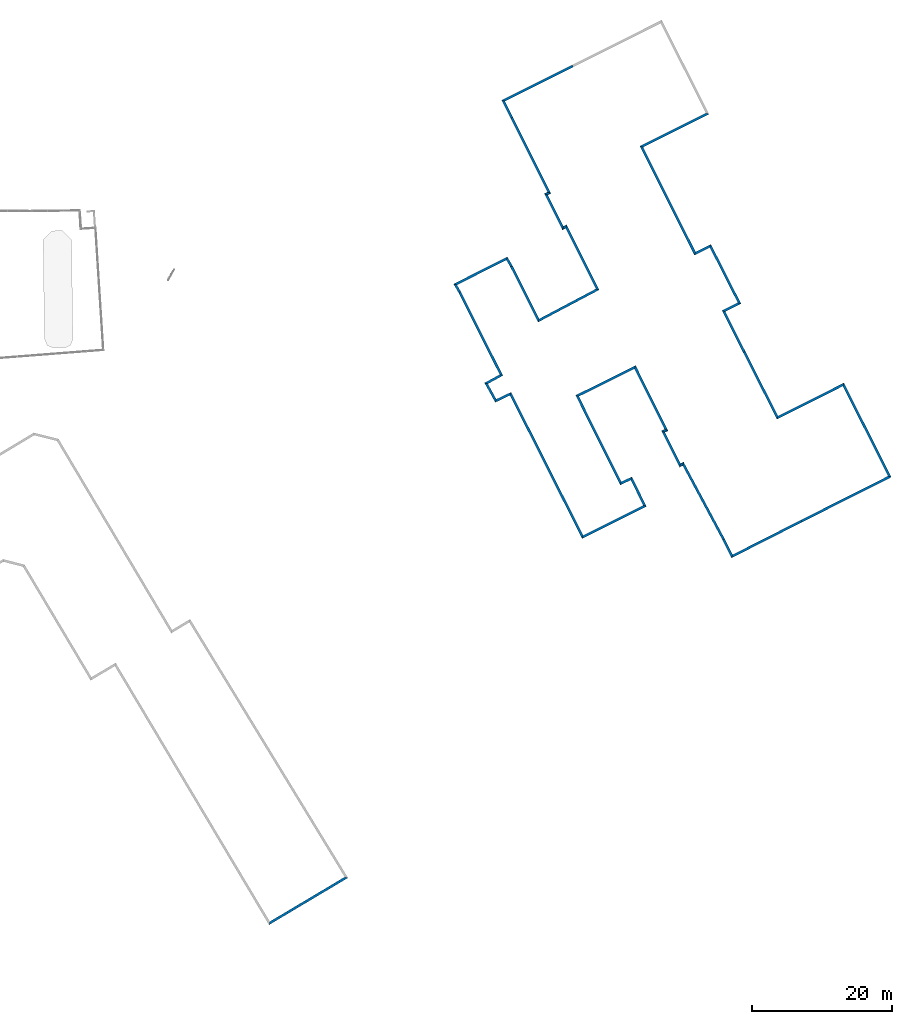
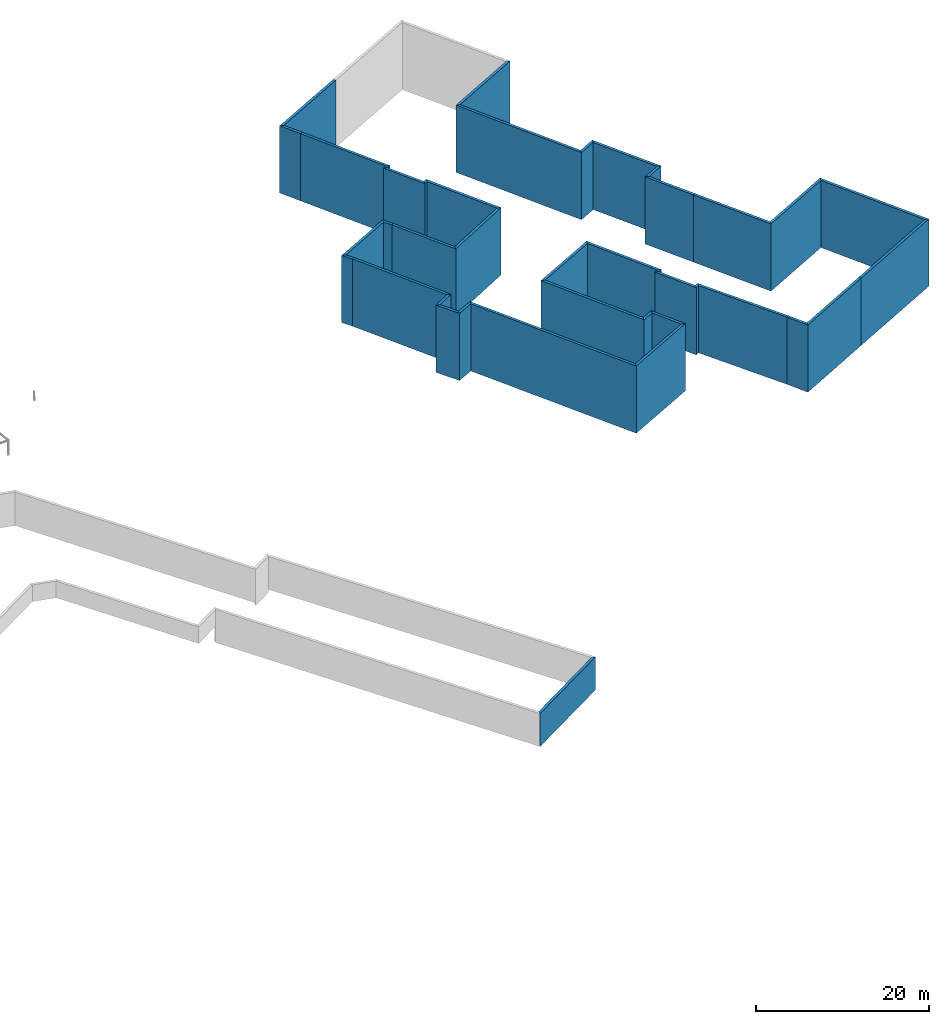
# One storey, part 32 of 91: 40 walls.
"""IFC2X3 building model written with IfcOpenShell, lengths in metres."""

from ifc_helpers import new_model, entity, si_unit, converted_unit, derived_unit, money_unit, direction, frame, origin_with_axes, place, context, subcontext, project, spatial, polyline, outline, extrude, material, layer, layer_set, layer_usage, type_object, element, save


model = new_model("IFC2X3")

# Units and contexts
model_context = context("Model", 3, precision=1e-05, world=origin_with_axes(), true_north=direction((0.0, 1.0)))
body_context = subcontext(model_context, "Body", "Model", "MODEL_VIEW")
ifc_project = project(units=[si_unit("LENGTHUNIT", "METRE"), si_unit("AREAUNIT", "SQUARE_METRE"), si_unit("VOLUMEUNIT", "CUBIC_METRE"), converted_unit("PLANEANGLEUNIT", "DEGREE", entity("IfcPlaneAngleMeasure", 0.0174532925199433), si_unit("PLANEANGLEUNIT", "RADIAN"), dimensions=[0, 0, 0, 0, 0, 0, 0]), money_unit("EUR"), converted_unit("TIMEUNIT", "Year", entity("IfcTimeMeasure", 31557600.0), si_unit("TIMEUNIT", "SECOND"), dimensions=[0, 0, 1, 0, 0, 0, 0]), si_unit("MASSUNIT", "GRAM", prefix="KILO"), si_unit("THERMODYNAMICTEMPERATUREUNIT", "DEGREE_CELSIUS"), si_unit("LUMINOUSINTENSITYUNIT", "LUMEN"), si_unit("ENERGYUNIT", "JOULE", prefix="MEGA"), derived_unit("THERMALCONDUCTANCEUNIT", [(si_unit("POWERUNIT", "WATT"), 1), (si_unit("LENGTHUNIT", "METRE"), -1), (si_unit("THERMODYNAMICTEMPERATUREUNIT", "KELVIN"), -1)]), derived_unit("SPECIFICHEATCAPACITYUNIT", [(si_unit("ENERGYUNIT", "JOULE"), 1), (si_unit("MASSUNIT", "GRAM", prefix="KILO"), -1), (si_unit("THERMODYNAMICTEMPERATUREUNIT", "KELVIN"), -1)]), derived_unit("MASSDENSITYUNIT", [(si_unit("MASSUNIT", "GRAM", prefix="KILO"), 1), (si_unit("VOLUMEUNIT", "CUBIC_METRE"), -1)])], contexts=[model_context])

# Site, building, storey
site_placement = place(None, origin_with_axes())
site = spatial("IfcSite", under=ifc_project, at=site_placement, Name="Site", CompositionType="ELEMENT")
building_placement = place(site_placement, origin_with_axes())
building = spatial("IfcBuilding", under=site, at=building_placement, Name="Bâtiment", CompositionType="ELEMENT")
storey_placement = place(building_placement, origin_with_axes())
storey = spatial("IfcBuildingStorey", under=building, at=storey_placement, Name="RDC", CompositionType="ELEMENT", Elevation=0.0)

# Walls
ifc_material_1 = material(Name="*GENERIQUE - ENDUIT EXT")
ifc_layer_1 = layer(ifc_material_1, 0.02, ventilated="UNKNOWN")
ifc_material_2 = material(Name="*GENERIQUE - MAÇONNERIE")
ifc_layer_2 = layer(ifc_material_2, 0.2, ventilated="UNKNOWN")
ifc_material_3 = material(Name="*GENERIQUE - ISOLATION INT")
ifc_layer_3 = layer(ifc_material_3, 0.12, ventilated="UNKNOWN")
ifc_material_4 = material(Name="*PLAQUE DE PLATRE - DOUBLAGE")
ifc_layer_4 = layer(ifc_material_4, 0.013, ventilated="UNKNOWN")
ifc_layer_set = layer_set([ifc_layer_1, ifc_layer_2, ifc_layer_3, ifc_layer_4], Name="*Mur MITI 36")
ifc_layer_usage_1 = layer_usage(ifc_layer_set, "AXIS2", "POSITIVE", -0.02)
wall_type = type_object("IfcWallType", Name="*Mur MITI 36 353", PredefinedType="NOTDEFINED")
wall_1_placement = place(storey_placement, frame((169.8588998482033, 27.99267763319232, -6.140573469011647), z_axis=(0.0, 0.0, 1.0), x_axis=(-0.8946100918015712, -0.4468476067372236, 0.0)))
element("IfcWallStandardCase", 1, at=wall_1_placement, inside=storey, type_object=wall_type, material=ifc_layer_usage_1, Name="MC_AGL_Ext-019", context=body_context, shape_type="SweptSolid", body=[
    extrude(outline(polyline([(9.119003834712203e-06, -0.02000000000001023), (11.24123613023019, -0.02000000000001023), (10.88781121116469, 0.3329999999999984), (-0.0001518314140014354, 0.3330000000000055), (9.119003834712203e-06, -0.02000000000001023)])), origin_with_axes(), (0.0, 0.0, 1.0), 9.480573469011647),
])
ifc_layer_usage_2 = layer_usage(ifc_layer_set, "AXIS2", "POSITIVE", -0.02)
wall_2_placement = place(storey_placement, frame((159.8202903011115, 22.97850588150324, -6.140573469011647), z_axis=(0.0, 0.0, 1.0), x_axis=(0.4479235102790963, -0.8940718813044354, 0.0)))
element("IfcWallStandardCase", 2, at=wall_2_placement, inside=storey, type_object=wall_type, material=ifc_layer_usage_2, Name="MC_AGL_Ext-020", context=body_context, shape_type="SweptSolid", body=[
    extrude(outline(polyline([(-0.02002407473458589, -0.02000000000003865), (2.889030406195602, -0.02000000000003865), (2.889346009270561, 0.33299999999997), (0.3334008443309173, 0.33299999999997), (-0.02002407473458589, -0.02000000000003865)])), origin_with_axes(), (0.0, 0.0, 1.0), 9.480573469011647),
])
ifc_layer_usage_3 = layer_usage(ifc_layer_set, "AXIS2", "POSITIVE", -0.02)
wall_3_placement = place(storey_placement, frame((161.1143629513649, 20.39548904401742, -6.140573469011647), z_axis=(0.0, 0.0, 1.0), x_axis=(0.4463240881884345, -0.8948713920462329, 0.0)))
element("IfcWallStandardCase", 3, at=wall_3_placement, inside=storey, type_object=wall_type, material=ifc_layer_usage_3, Name="MC_AGL_Ext-021", context=body_context, shape_type="SweptSolid", body=[
    extrude(outline(polyline([(1.788119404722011e-05, -0.02000000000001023), (11.76916496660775, -0.01999999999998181), (12.11414718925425, 0.3330000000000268), (-0.000297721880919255, 0.33299999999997), (1.788119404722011e-05, -0.02000000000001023)])), origin_with_axes(), (0.0, 0.0, 1.0), 9.480573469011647),
])
ifc_layer_usage_4 = layer_usage(ifc_layer_set, "AXIS2", "POSITIVE", -0.02)
wall_4_placement = place(storey_placement, frame((166.3759485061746, 9.84610908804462, -6.140573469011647), z_axis=(0.0, 0.0, 1.0), x_axis=(-0.8843826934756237, -0.466762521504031, 0.0)))
element("IfcWallStandardCase", 4, at=wall_4_placement, inside=storey, type_object=wall_type, material=ifc_layer_usage_4, Name="MC_AGL_Ext-022", context=body_context, shape_type="SweptSolid", body=[
    extrude(outline(polyline([(0.01954573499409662, -0.01999999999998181), (0.5195857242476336, -0.01999999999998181), (0.1738976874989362, 0.3330000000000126), (-0.3254364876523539, 0.3330000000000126), (0.01954573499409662, -0.01999999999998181)])), origin_with_axes(), (0.0, 0.0, 1.0), 9.480573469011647),
])
ifc_layer_usage_5 = layer_usage(ifc_layer_set, "AXIS2", "POSITIVE", -0.02)
wall_5_placement = place(storey_placement, frame((165.9337571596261, 9.612727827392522, -6.140573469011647), z_axis=(0.0, 0.0, 1.0), x_axis=(0.4481517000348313, -0.8939575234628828, 0.0)))
element("IfcWallStandardCase", 5, at=wall_5_placement, inside=storey, type_object=wall_type, material=ifc_layer_usage_5, Name="MC_AGL_Ext-023", context=body_context, shape_type="SweptSolid", body=[
    extrude(outline(polyline([(-0.0195857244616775, -0.02000000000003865), (5.715679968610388, -0.02000000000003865), (5.362106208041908, 0.33299999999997), (0.3261023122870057, 0.33299999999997), (-0.0195857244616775, -0.02000000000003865)])), origin_with_axes(), (0.0, 0.0, 1.0), 9.480573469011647),
])
ifc_layer_usage_6 = layer_usage(ifc_layer_set, "AXIS2", "POSITIVE", -0.02)
wall_6_placement = place(storey_placement, frame((168.4862712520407, 4.521060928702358, -6.140573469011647), z_axis=(0.0, 0.0, 1.0), x_axis=(0.8932285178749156, 0.4496029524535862, 0.0)))
element("IfcWallStandardCase", 6, at=wall_6_placement, inside=storey, type_object=wall_type, material=ifc_layer_usage_6, Name="MC_AGL_Ext-024", context=body_context, shape_type="SweptSolid", body=[
    extrude(outline(polyline([(-0.02003250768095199, -0.01999999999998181), (0.47723745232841, -0.01999999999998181), (0.8312120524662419, 0.3330000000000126), (0.3335412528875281, 0.3330000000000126), (-0.02003250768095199, -0.01999999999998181)])), origin_with_axes(), (0.0, 0.0, 1.0), 9.480573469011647),
])
ifc_layer_usage_7 = layer_usage(ifc_layer_set, "AXIS2", "POSITIVE", -0.02)
wall_7_placement = place(storey_placement, frame((168.9304672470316, 4.744645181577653, -6.140573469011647), z_axis=(0.0, 0.0, 1.0), x_axis=(0.4471385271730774, -0.8944647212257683, 0.0)))
element("IfcWallStandardCase", 7, at=wall_7_placement, inside=storey, type_object=wall_type, material=ifc_layer_usage_7, Name="MC_AGL_Ext-025", context=body_context, shape_type="SweptSolid", body=[
    extrude(outline(polyline([(0.02005521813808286, -0.01999999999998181), (9.68081260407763, -0.01999999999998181), (10.02583859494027, 0.3330000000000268), (-0.3339193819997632, 0.3330000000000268), (0.02005521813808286, -0.01999999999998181)])), origin_with_axes(), (0.0, 0.0, 1.0), 9.480573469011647),
])
ifc_layer_usage_8 = layer_usage(ifc_layer_set, "AXIS2", "POSITIVE", -0.02)
wall_8_placement = place(storey_placement, frame((173.267872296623, -3.931985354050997, -6.140573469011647), z_axis=(0.0, 0.0, 1.0), x_axis=(-0.8840167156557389, -0.4674552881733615, 0.0)))
element("IfcWallStandardCase", 8, at=wall_8_placement, inside=storey, type_object=wall_type, material=ifc_layer_usage_8, Name="MC_AGL_Ext-026", context=body_context, shape_type="SweptSolid", body=[
    extrude(outline(polyline([(0.01954821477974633, -0.02000000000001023), (9.16917180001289, -0.02000000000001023), (9.529779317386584, 0.3329999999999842), (-0.3254777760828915, 0.3329999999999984), (0.01954821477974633, -0.02000000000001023)])), origin_with_axes(), (0.0, 0.0, 1.0), 9.480573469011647),
])
ifc_layer_usage_9 = layer_usage(ifc_layer_set, "AXIS2", "POSITIVE", -0.02)
wall_9_placement = place(storey_placement, frame((165.1441097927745, -8.227713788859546, -6.140573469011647), z_axis=(0.0, 0.0, 1.0), x_axis=(-0.4485028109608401, 0.8937814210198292, 0.0)))
element("IfcWallStandardCase", 9, at=wall_9_placement, inside=storey, type_object=wall_type, material=ifc_layer_usage_9, Name="MC_AGL_Ext-027", context=body_context, shape_type="SweptSolid", body=[
    extrude(outline(polyline([(0.02043102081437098, -0.02000000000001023), (8.49319789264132, -0.02000000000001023), (8.482484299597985, 0.33299999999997), (-0.340176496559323, 0.3329999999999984), (0.02043102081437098, -0.02000000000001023)])), origin_with_axes(), (0.0, 0.0, 1.0), 9.480573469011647),
])
ifc_layer_usage_10 = layer_usage(ifc_layer_set, "AXIS2", "POSITIVE", -0.02)
wall_10_placement = place(storey_placement, frame((161.3351589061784, -0.6371938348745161, -6.140573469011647), z_axis=(0.0, 0.0, 1.0), x_axis=(-0.5018801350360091, 0.8649371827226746, 0.0)))
element("IfcWallStandardCase", 10, at=wall_10_placement, inside=storey, type_object=wall_type, material=ifc_layer_usage_10, Name="MC_AGL_Ext-028", context=body_context, shape_type="SweptSolid", body=[
    extrude(outline(polyline([(-0.0006070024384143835, -0.02000000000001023), (1.463994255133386, -0.02000000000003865), (1.131646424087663, 0.33299999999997), (0.01010659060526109, 0.33299999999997), (-0.0006070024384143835, -0.02000000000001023)])), origin_with_axes(), (0.0, 0.0, 1.0), 9.480573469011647),
])
ifc_layer_usage_11 = layer_usage(ifc_layer_set, "AXIS2", "POSITIVE", -0.02)
wall_11_placement = place(storey_placement, frame((160.6098596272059, 0.6127825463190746, -6.140573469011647), z_axis=(0.0, 0.0, 1.0), x_axis=(-0.8935875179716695, -0.4488890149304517, 0.0)))
element("IfcWallStandardCase", 11, at=wall_11_placement, inside=storey, type_object=wall_type, material=ifc_layer_usage_11, Name="MC_AGL_Ext-029", context=body_context, shape_type="SweptSolid", body=[
    extrude(outline(polyline([(-0.01882990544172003, -0.01999999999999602), (8.577019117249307, -0.01999999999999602), (8.201249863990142, 0.3330000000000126), (0.3135179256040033, 0.3330000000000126), (-0.01882990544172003, -0.01999999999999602)])), origin_with_axes(), (0.0, 0.0, 1.0), 9.480573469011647),
])
ifc_layer_usage_12 = layer_usage(ifc_layer_set, "AXIS2", "POSITIVE", -0.02)
wall_12_placement = place(storey_placement, frame((152.9645669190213, -3.227790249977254, -6.140573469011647), z_axis=(0.0, 0.0, 1.0), x_axis=(0.5037965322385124, -0.8638223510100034, 0.0)))
element("IfcWallStandardCase", 12, at=wall_12_placement, inside=storey, type_object=wall_type, material=ifc_layer_usage_12, Name="MC_AGL_Ext-030", context=body_context, shape_type="SweptSolid", body=[
    extrude(outline(polyline([(-0.0212900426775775, -0.02000000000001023), (1.435057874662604, -0.02000000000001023), (1.446179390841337, 0.3329999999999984), (0.3544792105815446, 0.3329999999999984), (-0.0212900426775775, -0.02000000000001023)])), origin_with_axes(), (0.0, 0.0, 1.0), 9.480573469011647),
])
ifc_layer_usage_13 = layer_usage(ifc_layer_set, "AXIS2", "POSITIVE", -0.02)
wall_13_placement = place(storey_placement, frame((153.6878615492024, -4.467969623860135, -6.140573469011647), z_axis=(0.0, 0.0, 1.0), x_axis=(0.4484206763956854, -0.8938226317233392, 0.0)))
element("IfcWallStandardCase", 13, at=wall_13_placement, inside=storey, type_object=wall_type, material=ifc_layer_usage_13, Name="MC_AGL_Ext-031", context=body_context, shape_type="SweptSolid", body=[
    extrude(outline(polyline([(0.0006301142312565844, -0.02000000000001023), (13.0507040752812, -0.02000000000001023), (13.3909395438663, 0.3329999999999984), (-0.01049140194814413, 0.3329999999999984), (0.0006301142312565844, -0.02000000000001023)])), origin_with_axes(), (0.0, 0.0, 1.0), 9.480573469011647),
])
ifc_layer_usage_14 = layer_usage(ifc_layer_set, "AXIS2", "POSITIVE", -0.02)
wall_14_placement = place(storey_placement, frame((159.5487112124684, -16.15021432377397, -6.140573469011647), z_axis=(0.0, 0.0, 1.0), x_axis=(-0.8767088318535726, -0.4810214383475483, 0.0)))
element("IfcWallStandardCase", 14, at=wall_14_placement, inside=storey, type_object=wall_type, material=ifc_layer_usage_14, Name="MC_AGL_Ext-032", context=body_context, shape_type="SweptSolid", body=[
    extrude(outline(polyline([(0.01927679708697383, -0.01999999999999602), (2.490397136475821, -0.01999999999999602), (2.136103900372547, 0.3329999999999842), (-0.3209586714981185, 0.3329999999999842), (0.01927679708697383, -0.01999999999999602)])), origin_with_axes(), (0.0, 0.0, 1.0), 9.480573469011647),
])
ifc_layer_usage_15 = layer_usage(ifc_layer_set, "AXIS2", "POSITIVE", -0.02)
wall_15_placement = place(storey_placement, frame((157.3829564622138, -17.33849306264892, -6.140573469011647), z_axis=(0.0, 0.0, 1.0), x_axis=(0.4842242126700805, -0.874943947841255, 0.0)))
element("IfcWallStandardCase", 15, at=wall_15_placement, inside=storey, type_object=wall_type, material=ifc_layer_usage_15, Name="MC_AGL_Ext-033", context=body_context, shape_type="SweptSolid", body=[
    extrude(outline(polyline([(-0.02007327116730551, -0.01999999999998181), (3.162659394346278, -0.02000000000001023), (2.830132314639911, 0.3330000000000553), (0.3342199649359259, 0.3330000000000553), (-0.02007327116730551, -0.01999999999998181)])), origin_with_axes(), (0.0, 0.0, 1.0), 9.480573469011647),
])
ifc_layer_usage_16 = layer_usage(ifc_layer_set, "AXIS2", "POSITIVE", -0.02)
wall_16_placement = place(storey_placement, frame((158.9052699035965, -20.08915876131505, -6.140573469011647), z_axis=(0.0, 0.0, 1.0), x_axis=(0.9022810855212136, 0.4311482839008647, 0.0)))
element("IfcWallStandardCase", 16, at=wall_16_placement, inside=storey, type_object=wall_type, material=ifc_layer_usage_16, Name="MC_AGL_Ext-034", context=body_context, shape_type="SweptSolid", body=[
    extrude(outline(polyline([(-0.01884006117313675, -0.02000000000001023), (2.299053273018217, -0.02000000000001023), (2.644791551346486, 0.3329999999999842), (0.3136870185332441, 0.3329999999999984), (-0.01884006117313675, -0.02000000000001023)])), origin_with_axes(), (0.0, 0.0, 1.0), 9.480573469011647),
])
ifc_layer_usage_17 = layer_usage(ifc_layer_set, "AXIS2", "POSITIVE", -0.02)
wall_17_placement = place(storey_placement, frame((160.9973365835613, -19.0894803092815, -6.140573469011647), z_axis=(0.0, 0.0, 1.0), x_axis=(0.4498072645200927, -0.8931256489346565, 0.0)))
element("IfcWallStandardCase", 17, at=wall_17_placement, inside=storey, type_object=wall_type, material=ifc_layer_usage_17, Name="MC_AGL_Ext-035", context=body_context, shape_type="SweptSolid", body=[
    extrude(outline(polyline([(0.01958857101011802, -0.01999999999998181), (22.87606299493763, -0.01999999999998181), (22.52475584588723, 0.3329999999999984), (-0.3261497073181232, 0.3329999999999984), (0.01958857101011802, -0.01999999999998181)])), origin_with_axes(), (0.0, 0.0, 1.0), 9.480573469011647),
])
ifc_layer_usage_18 = layer_usage(ifc_layer_set, "AXIS2", "POSITIVE", -0.02)
wall_18_placement = place(storey_placement, frame((171.2782028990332, -39.50290206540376, -6.140573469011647), z_axis=(0.0, 0.0, 1.0), x_axis=(0.8952776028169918, 0.4455087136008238, 0.0)))
element("IfcWallStandardCase", 18, at=wall_18_placement, inside=storey, type_object=wall_type, material=ifc_layer_usage_18, Name="MC_AGL_Ext-036", context=body_context, shape_type="SweptSolid", body=[
    extrude(outline(polyline([(-0.01990408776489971, -0.01999999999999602), (10.2536887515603, -0.02000000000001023), (9.90121869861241, 0.3329999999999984), (0.3314030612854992, 0.3329999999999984), (-0.01990408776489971, -0.01999999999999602)])), origin_with_axes(), (0.0, 0.0, 1.0), 9.480573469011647),
])
ifc_layer_usage_19 = layer_usage(ifc_layer_set, "AXIS2", "POSITIVE", -0.02)
wall_19_placement = place(storey_placement, frame((180.4402221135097, -34.94369117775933, -6.140573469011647), z_axis=(0.0, 0.0, 1.0), x_axis=(-0.4441631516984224, 0.895945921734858, 0.0)))
element("IfcWallStandardCase", 19, at=wall_19_placement, inside=storey, type_object=wall_type, material=ifc_layer_usage_19, Name="MC_AGL_Ext-037", context=body_context, shape_type="SweptSolid", body=[
    extrude(outline(polyline([(-0.0199699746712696, -0.02000000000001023), (4.715848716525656, -0.02000000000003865), (4.363985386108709, 0.3329999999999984), (0.3325000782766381, 0.3329999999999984), (-0.0199699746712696, -0.02000000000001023)])), origin_with_axes(), (0.0, 0.0, 1.0), 9.480573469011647),
])
ifc_layer_usage_20 = layer_usage(ifc_layer_set, "AXIS2", "POSITIVE", -0.02)
wall_20_placement = place(storey_placement, frame((178.3544705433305, -30.73640697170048, -6.140573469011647), z_axis=(0.0, 0.0, 1.0), x_axis=(-0.8973737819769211, -0.4412712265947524, 0.0)))
element("IfcWallStandardCase", 20, at=wall_20_placement, inside=storey, type_object=wall_type, material=ifc_layer_usage_20, Name="MC_AGL_Ext-038", context=body_context, shape_type="SweptSolid", body=[
    extrude(outline(polyline([(-0.0199355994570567, -0.01999999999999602), (1.643964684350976, -0.02000000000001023), (1.995487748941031, 0.3330000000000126), (0.3319277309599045, 0.3330000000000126), (-0.0199355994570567, -0.01999999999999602)])), origin_with_axes(), (0.0, 0.0, 1.0), 9.480573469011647),
])
ifc_layer_usage_21 = layer_usage(ifc_layer_set, "AXIS2", "POSITIVE", -0.02)
wall_21_placement = place(storey_placement, frame((176.861347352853, -31.47062978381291, -6.140573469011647), z_axis=(0.0, 0.0, 1.0), x_axis=(-0.4450297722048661, 0.8955157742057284, 0.0)))
element("IfcWallStandardCase", 21, at=wall_21_placement, inside=storey, type_object=wall_type, material=ifc_layer_usage_21, Name="MC_AGL_Ext-039", context=body_context, shape_type="SweptSolid", body=[
    extrude(outline(polyline([(0.01991632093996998, -0.01999999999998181), (13.6264639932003, -0.01999999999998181), (13.97954192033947, 0.3330000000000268), (-0.3316067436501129, 0.3330000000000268), (0.01991632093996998, -0.01999999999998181)])), origin_with_axes(), (0.0, 0.0, 1.0), 9.480573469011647),
])
ifc_layer_usage_22 = layer_usage(ifc_layer_set, "AXIS2", "POSITIVE", -0.02)
wall_22_placement = place(storey_placement, frame((170.7882626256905, -19.25000206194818, -6.140573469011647), z_axis=(0.0, 0.0, 1.0), x_axis=(0.895613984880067, 0.4448320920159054, 0.0)))
element("IfcWallStandardCase", 22, at=wall_22_placement, inside=storey, type_object=wall_type, material=ifc_layer_usage_22, Name="MC_AGL_Ext-040", context=body_context, shape_type="SweptSolid", body=[
    extrude(outline(polyline([(0.02000441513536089, -0.01999999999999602), (8.87708711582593, -0.02000000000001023), (9.23032601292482, 0.3329999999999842), (-0.3330735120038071, 0.3329999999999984), (0.02000441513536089, -0.01999999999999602)])), origin_with_axes(), (0.0, 0.0, 1.0), 9.480573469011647),
])
ifc_layer_usage_23 = layer_usage(ifc_layer_set, "AXIS2", "POSITIVE", -0.02)
wall_23_placement = place(storey_placement, frame((178.7566303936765, -15.2922861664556, -6.140573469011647), z_axis=(0.0, 0.0, 1.0), x_axis=(0.4442260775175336, -0.8959147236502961, 0.0)))
element("IfcWallStandardCase", 23, at=wall_23_placement, inside=storey, type_object=wall_type, material=ifc_layer_usage_23, Name="MC_AGL_Ext-041", context=body_context, shape_type="SweptSolid", body=[
    extrude(outline(polyline([(0.0200135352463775, -0.02000000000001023), (9.682428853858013, -0.02000000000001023), (10.03331348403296, 0.3329999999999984), (-0.3332253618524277, 0.3329999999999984), (0.0200135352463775, -0.02000000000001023)])), origin_with_axes(), (0.0, 0.0, 1.0), 9.480573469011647),
])
ifc_layer_usage_24 = layer_usage(ifc_layer_set, "AXIS2", "POSITIVE", -0.02)
wall_24_placement = place(storey_placement, frame((183.0666490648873, -23.98472765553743, -6.140573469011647), z_axis=(0.0, 0.0, 1.0), x_axis=(-0.8932285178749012, -0.4496029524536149, 0.0)))
element("IfcWallStandardCase", 24, at=wall_24_placement, inside=storey, type_object=wall_type, material=ifc_layer_usage_24, Name="MC_AGL_Ext-042", context=body_context, shape_type="SweptSolid", body=[
    extrude(outline(polyline([(0.01988014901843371, -0.01999999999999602), (0.517217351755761, -0.01999999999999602), (0.1655467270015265, 0.3330000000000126), (-0.3310044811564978, 0.3330000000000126), (0.01988014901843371, -0.01999999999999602)])), origin_with_axes(), (0.0, 0.0, 1.0), 9.480573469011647),
])
ifc_layer_usage_25 = layer_usage(ifc_layer_set, "AXIS2", "POSITIVE", -0.02)
wall_25_placement = place(storey_placement, frame((182.6224530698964, -24.20831190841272, -6.140573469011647), z_axis=(0.0, 0.0, 1.0), x_axis=(0.4462295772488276, -0.8949185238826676, 0.0)))
element("IfcWallStandardCase", 25, at=wall_25_placement, inside=storey, type_object=wall_type, material=ifc_layer_usage_25, Name="MC_AGL_Ext-043", context=body_context, shape_type="SweptSolid", body=[
    extrude(outline(polyline([(-0.01992468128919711, -0.01999999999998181), (5.723185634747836, -0.02000000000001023), (5.361943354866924, 0.3329999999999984), (0.3317459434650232, 0.33299999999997), (-0.01992468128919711, -0.01999999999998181)])), origin_with_axes(), (0.0, 0.0, 1.0), 9.480573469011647),
])
ifc_layer_usage_26 = layer_usage(ifc_layer_set, "AXIS2", "POSITIVE", -0.02)
wall_26_placement = place(storey_placement, frame((185.1671748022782, -29.31178046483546, -6.140573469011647), z_axis=(0.0, 0.0, 1.0), x_axis=(0.8843826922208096, 0.4667625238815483, 0.0)))
element("IfcWallStandardCase", 26, at=wall_26_placement, inside=storey, type_object=wall_type, material=ifc_layer_usage_26, Name="MC_AGL_Ext-044", context=body_context, shape_type="SweptSolid", body=[
    extrude(outline(polyline([(-0.02046698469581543, -0.01999999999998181), (0.480122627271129, -0.01999999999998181), (0.8309582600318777, 0.3330000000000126), (0.3407752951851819, 0.3330000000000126), (-0.02046698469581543, -0.01999999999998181)])), origin_with_axes(), (0.0, 0.0, 1.0), 9.480573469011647),
])
ifc_layer_usage_27 = layer_usage(ifc_layer_set, "AXIS2", "POSITIVE", -0.02)
wall_27_placement = place(storey_placement, frame((185.6093661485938, -29.07839920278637, -6.140573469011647), z_axis=(0.0, 0.0, 1.0), x_axis=(0.4721927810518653, -0.8814953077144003, 0.0)))
element("IfcWallStandardCase", 27, at=wall_27_placement, inside=storey, type_object=wall_type, material=ifc_layer_usage_27, Name="MC_AGL_Ext-045", context=body_context, shape_type="SweptSolid", body=[
    extrude(outline(polyline([(0.01987737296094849, -0.02000000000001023), (12.03195418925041, -0.02000000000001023), (12.03677915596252, 0.3329999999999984), (-0.3309582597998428, 0.3329999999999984), (0.01987737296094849, -0.02000000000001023)])), origin_with_axes(), (0.0, 0.0, 1.0), 9.480573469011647),
])
ifc_layer_usage_28 = layer_usage(ifc_layer_set, "AXIS2", "POSITIVE", -0.02)
wall_28_placement = place(storey_placement, frame((191.2908971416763, -39.68475133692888, -6.140573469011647), z_axis=(0.0, 0.0, 1.0), x_axis=(0.4479235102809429, -0.8940718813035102, 0.0)))
element("IfcWallStandardCase", 28, at=wall_28_placement, inside=storey, type_object=wall_type, material=ifc_layer_usage_28, Name="MC_AGL_Ext-046", context=body_context, shape_type="SweptSolid", body=[
    extrude(outline(polyline([(0.0002733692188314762, -0.02000000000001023), (2.909152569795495, -0.01999999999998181), (2.554311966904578, 0.33299999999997), (-0.004551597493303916, 0.3329999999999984), (0.0002733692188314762, -0.02000000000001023)])), origin_with_axes(), (0.0, 0.0, 1.0), 9.480573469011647),
])
ifc_layer_usage_29 = layer_usage(ifc_layer_set, "AXIS2", "POSITIVE", -0.02)
wall_29_placement = place(storey_placement, frame((192.5849697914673, -42.26776817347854, -6.140573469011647), z_axis=(0.0, 0.0, 1.0), x_axis=(0.8917303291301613, 0.4525671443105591, 0.0)))
element("IfcWallStandardCase", 29, at=wall_29_placement, inside=storey, type_object=wall_type, material=ifc_layer_usage_29, Name="MC_AGL_Ext-047", context=body_context, shape_type="SweptSolid", body=[
    extrude(outline(polyline([(-0.02010428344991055, -0.02000000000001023), (11.26141134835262, -0.02000000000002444), (11.26189285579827, 0.3329999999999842), (0.3347363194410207, 0.3329999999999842), (-0.02010428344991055, -0.02000000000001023)])), origin_with_axes(), (0.0, 0.0, 1.0), 9.480573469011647),
])
ifc_layer_usage_30 = layer_usage(ifc_layer_set, "AXIS2", "POSITIVE", -0.02)
wall_30_placement = place(storey_placement, frame((202.6271361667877, -37.17121105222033, -6.140573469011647), z_axis=(0.0, 0.0, 1.0), x_axis=(0.8929616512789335, 0.4501327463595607, 0.0)))
element("IfcWallStandardCase", 30, at=wall_30_placement, inside=storey, type_object=wall_type, material=ifc_layer_usage_30, Name="MC_AGL_Ext-048", context=body_context, shape_type="SweptSolid", body=[
    extrude(outline(polyline([(2.728087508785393e-05, -0.02000000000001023), (14.25727509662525, -0.02000000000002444), (13.90458367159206, 0.3329999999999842), (-0.0004542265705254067, 0.3329999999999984), (2.728087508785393e-05, -0.02000000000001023)])), origin_with_axes(), (0.0, 0.0, 1.0), 9.480573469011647),
])
ifc_layer_usage_31 = layer_usage(ifc_layer_set, "AXIS2", "POSITIVE", -0.02)
wall_31_placement = place(storey_placement, frame((215.340492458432, -30.76253944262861, -6.140573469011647), z_axis=(0.0, 0.0, 1.0), x_axis=(-0.4493516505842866, 0.8933549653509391, 0.0)))
element("IfcWallStandardCase", 31, at=wall_31_placement, inside=storey, type_object=wall_type, material=ifc_layer_usage_31, Name="MC_AGL_Ext-049", context=body_context, shape_type="SweptSolid", body=[
    extrude(outline(polyline([(-0.01998251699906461, -0.01999999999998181), (15.03088692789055, -0.02000000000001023), (14.67775384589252, 0.3330000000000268), (0.3327089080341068, 0.3330000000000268), (-0.01998251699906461, -0.01999999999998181)])), origin_with_axes(), (0.0, 0.0, 1.0), 9.480573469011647),
])
ifc_layer_usage_32 = layer_usage(ifc_layer_set, "AXIS2", "POSITIVE", -0.02)
wall_32_placement = place(storey_placement, frame((208.5953290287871, -17.35249580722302, -6.140573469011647), z_axis=(0.0, 0.0, 1.0), x_axis=(-0.8931855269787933, -0.4496883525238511, 0.0)))
element("IfcWallStandardCase", 32, at=wall_32_placement, inside=storey, type_object=wall_type, material=ifc_layer_usage_32, Name="MC_AGL_Ext-050", context=body_context, shape_type="SweptSolid", body=[
    extrude(outline(polyline([(-0.02000754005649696, -0.01999999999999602), (10.49598375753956, -0.01999999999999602), (10.84821639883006, 0.3330000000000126), (0.3331255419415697, 0.3330000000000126), (-0.02000754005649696, -0.01999999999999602)])), origin_with_axes(), (0.0, 0.0, 1.0), 9.480573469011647),
])
ifc_layer_usage_33 = layer_usage(ifc_layer_set, "AXIS2", "POSITIVE", -0.02)
wall_33_placement = place(storey_placement, frame((199.2026433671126, -22.08139166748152, -6.140573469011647), z_axis=(0.0, 0.0, 1.0), x_axis=(-0.4516310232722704, 0.8922048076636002, 0.0)))
element("IfcWallStandardCase", 33, at=wall_33_placement, inside=storey, type_object=wall_type, material=ifc_layer_usage_33, Name="MC_AGL_Ext-051", context=body_context, shape_type="SweptSolid", body=[
    extrude(outline(polyline([(0.01995652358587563, -0.01999999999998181), (10.35629458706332, -0.02000000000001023), (10.35643300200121, 0.3329999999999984), (-0.3322761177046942, 0.3329999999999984), (0.01995652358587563, -0.01999999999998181)])), origin_with_axes(), (0.0, 0.0, 1.0), 9.480573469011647),
])
ifc_layer_usage_34 = layer_usage(ifc_layer_set, "AXIS2", "POSITIVE", -0.02)
wall_34_placement = place(storey_placement, frame((194.5254159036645, -12.84144885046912, -6.140573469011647), z_axis=(0.0, 0.0, 1.0), x_axis=(-0.4509311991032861, 0.8925587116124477, 0.0)))
element("IfcWallStandardCase", 34, at=wall_34_placement, inside=storey, type_object=wall_type, material=ifc_layer_usage_34, Name="MC_AGL_Ext-052", context=body_context, shape_type="SweptSolid", body=[
    extrude(outline(polyline([(7.842206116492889e-06, -0.02000000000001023), (6.333469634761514, -0.02000000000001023), (6.685391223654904, 0.3329999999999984), (-0.000130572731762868, 0.33299999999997), (7.842206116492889e-06, -0.02000000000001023)])), origin_with_axes(), (0.0, 0.0, 1.0), 9.480573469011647),
])
ifc_layer_usage_35 = layer_usage(ifc_layer_set, "AXIS2", "POSITIVE", -0.02)
wall_35_placement = place(storey_placement, frame((191.660465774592, -7.170658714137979, -6.140573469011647), z_axis=(0.0, 0.0, 1.0), x_axis=(0.8911748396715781, 0.4536600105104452, 0.0)))
element("IfcWallStandardCase", 35, at=wall_35_placement, inside=storey, type_object=wall_type, material=ifc_layer_usage_35, Name="MC_AGL_Ext-053", context=body_context, shape_type="SweptSolid", body=[
    extrude(outline(polyline([(0.01993890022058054, -0.01999999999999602), (2.540639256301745, -0.01999999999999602), (2.188261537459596, 0.3329999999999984), (-0.331982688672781, 0.3329999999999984), (0.01993890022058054, -0.01999999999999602)])), origin_with_axes(), (0.0, 0.0, 1.0), 9.480573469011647),
])
ifc_layer_usage_36 = layer_usage(ifc_layer_set, "AXIS2", "POSITIVE", -0.02)
wall_36_placement = place(storey_placement, frame((189.6273310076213, 2.416377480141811, -6.140573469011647), z_axis=(0.0, 0.0, 1.0), x_axis=(-0.8948512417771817, -0.4463644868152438, 0.0)))
element("IfcWallStandardCase", 36, at=wall_36_placement, inside=storey, type_object=wall_type, material=ifc_layer_usage_36, Name="MC_AGL_Ext-055", context=body_context, shape_type="SweptSolid", body=[
    extrude(outline(polyline([(-0.01987230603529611, -0.01999999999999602), (2.422678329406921, -0.01999999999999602), (2.775037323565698, 0.3329999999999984), (0.3308738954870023, 0.3329999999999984), (-0.01987230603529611, -0.01999999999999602)])), origin_with_axes(), (0.0, 0.0, 1.0), 9.480573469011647),
])
ifc_layer_usage_37 = layer_usage(ifc_layer_set, "AXIS2", "POSITIVE", -0.02)
wall_37_placement = place(storey_placement, frame((193.9068274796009, -6.027129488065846, -6.140573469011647), z_axis=(0.0, 0.0, 1.0), x_axis=(-0.4520869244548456, 0.8919738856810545, 0.0)))
element("IfcWallStandardCase", 37, at=wall_37_placement, inside=storey, type_object=wall_type, material=ifc_layer_usage_37, Name="MC_AGL_Ext-054", context=body_context, shape_type="SweptSolid", body=[
    extrude(outline(polyline([(-0.01996474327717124, -0.01999999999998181), (9.485964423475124, -0.01999999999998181), (9.135218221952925, 0.3330000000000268), (0.3324129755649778, 0.3329999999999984), (-0.01996474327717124, -0.01999999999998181)])), origin_with_axes(), (0.0, 0.0, 1.0), 9.480573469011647),
])
ifc_layer_usage_38 = layer_usage(ifc_layer_set, "AXIS2", "POSITIVE", -0.02)
wall_38_placement = place(storey_placement, frame((187.4415297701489, 1.32606883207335, -6.140573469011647), z_axis=(0.0, 0.0, 1.0), x_axis=(-0.4479901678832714, 0.8940384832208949, 0.0)))
element("IfcWallStandardCase", 38, at=wall_38_placement, inside=storey, type_object=wall_type, material=ifc_layer_usage_38, Name="MC_AGL_Ext-056", context=body_context, shape_type="SweptSolid", body=[
    extrude(outline(polyline([(0.01996368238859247, -0.02000000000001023), (16.69333871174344, -0.02000000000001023), (17.04607948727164, 0.3329999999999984), (-0.3323953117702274, 0.3329999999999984), (0.01996368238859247, -0.02000000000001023)])), origin_with_axes(), (0.0, 0.0, 1.0), 9.480573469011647),
])
ifc_layer_usage_39 = layer_usage(ifc_layer_set, "AXIS2", "POSITIVE", -0.02)
wall_39_placement = place(storey_placement, frame((179.9541249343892, 16.26842369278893, -6.140573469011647), z_axis=(0.0, 0.0, 1.0), x_axis=(0.8937091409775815, 0.4486468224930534, 0.0)))
element("IfcWallStandardCase", 39, at=wall_39_placement, inside=storey, type_object=wall_type, material=ifc_layer_usage_39, Name="MC_AGL_Ext-057", context=body_context, shape_type="SweptSolid", body=[
    extrude(outline(polyline([(0.01998531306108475, -0.01999999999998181), (10.54300712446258, -0.01999999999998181), (10.18960546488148, 0.3330000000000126), (-0.3327554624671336, 0.3329999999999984), (0.01998531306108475, -0.01999999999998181)])), origin_with_axes(), (0.0, 0.0, 1.0), 9.480573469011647),
])
ifc_layer_usage_40 = layer_usage(ifc_layer_set, "AXIS2", "POSITIVE", -0.02)
wall_40_placement = place(storey_placement, frame((126.6388380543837, -94.58095124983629, -1.312532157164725), z_axis=(0.0, 0.0, 1.0), x_axis=(0.8593127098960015, 0.5114505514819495, 0.0)))
element("IfcWallStandardCase", 40, at=wall_40_placement, inside=storey, type_object=wall_type, material=ifc_layer_usage_40, Name="MC_AGL_Ext-051", context=body_context, shape_type="SweptSolid", body=[
    extrude(outline(polyline([(-0.01999253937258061, -0.02000000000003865), (13.10204743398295, -0.02000000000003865), (12.7451072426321, 0.33299999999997), (0.3328757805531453, 0.33299999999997), (-0.01999253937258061, -0.02000000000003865)])), origin_with_axes(), (0.0, 0.0, 1.0), 4.652532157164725),
])

save(model, "model.ifc")
